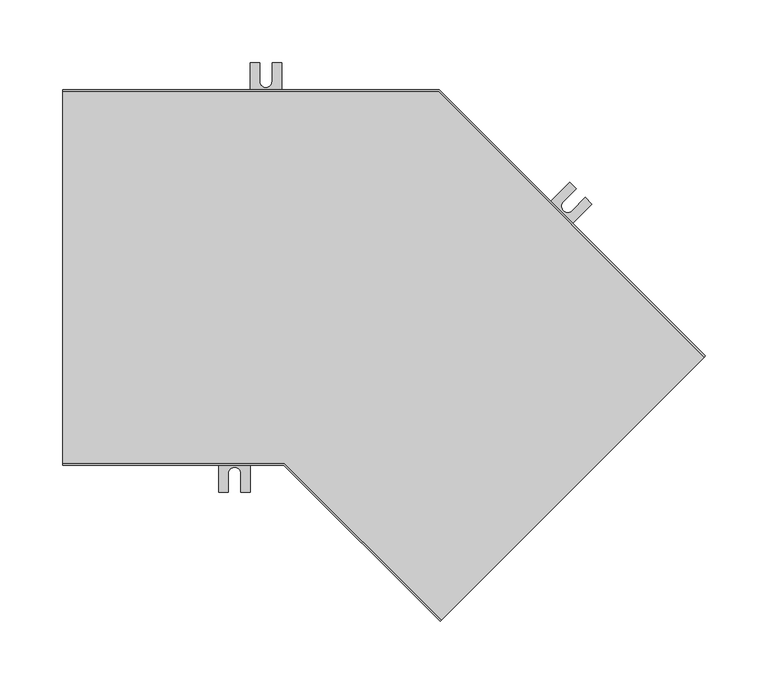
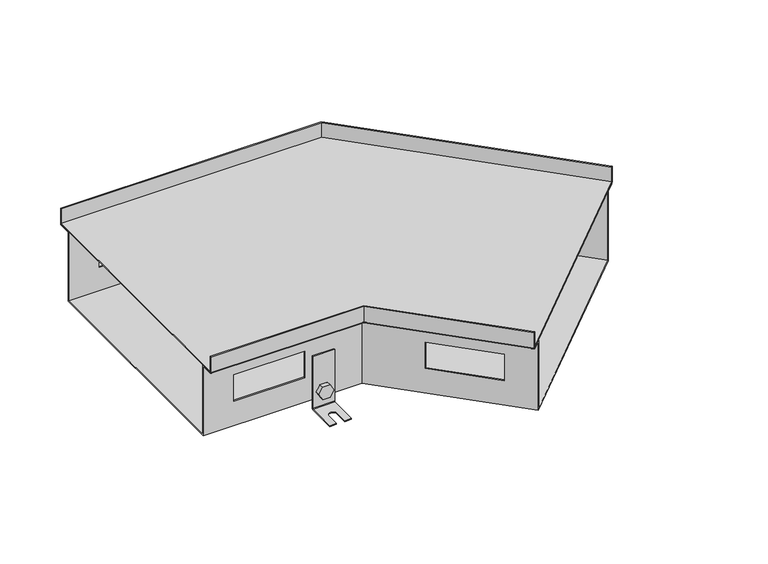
"""IFC4 building model written with IfcOpenShell, lengths in millimetres: proxy geometry, TECHNO_Угловой элемент_KVU : 300_105_135°."""

from ifc_helpers import new_model, si_unit, point, frame, frame_2d, origin, place, context, project, spatial, polyline, circle_curve, ellipse_curve, trimmed, segment, composite_curve, outline, extrude, source, transform, mapped, element, save
from ifc_brep_helpers import plane_surface, cylinder_surface, revolved_surface, advanced_brep


def mechanical_equipment_d3b76028(model_context):
    return source(origin(), model_context, "Body", "SolidModel", [
        extrude(outline(composite_curve([segment(trimmed(circle_curve(frame_2d((0.0, -7.5000001)), 7.5), [point((0.0, -15.0))], [point((0.0, 0.0))], False, "CARTESIAN"), True, "CONTINUOUS"), segment(trimmed(circle_curve(frame_2d((0.0, -7.5000001)), 7.5), [point((0.0, 0.0))], [point((0.0, -15.0))], False, "CARTESIAN"), True, "CONTINUOUS")], self_intersect=False)), frame((361.7404725, -31.0900467, -95.5), z_axis=(0.7071067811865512, 0.7071067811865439, 0.0), x_axis=(0.0, 0.0, 1.0)), (0.0, 0.0, 1.0), 1.5),
        extrude(outline(polyline([(0.0, 0.0), (8.660254, 1e-07), (12.990381, -7.5), (8.660254, -15.0), (0.0, -15.0), (-4.3301271, -7.4999999), (0.0, 0.0)])), frame((345.8586746, -24.1177942, -95.5), z_axis=(0.7071067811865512, 0.7071067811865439, 0.0), x_axis=(0.3535533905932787, -0.3535533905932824, -0.8660254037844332)), (0.0, 0.0, 1.0), 5.1),
        advanced_brep(
        [(364.4274783, -35.4741087, -50.5), (364.4274783, -35.4741087, -113.5), (363.8617928, -36.0397941, -114.3), (340.5272691, -59.3743179, -114.3), (340.5272691, -59.3743179, -115.5), (363.8617928, -36.0397941, -115.5), (365.2760064, -34.6255806, -113.5), (365.2760064, -34.6255806, -50.5), (346.7498087, -17.7964392, -50.5), (347.5983369, -16.947911, -50.5), (347.5983369, -16.947911, -113.5), (346.1841233, -18.3621246, -115.5), (322.8495995, -41.6966484, -115.5), (322.8495995, -41.6966484, -114.3), (346.1841233, -18.3621246, -114.3), (346.7498087, -17.7964392, -113.5), (328.1529004, -46.9999492, -114.3), (338.7595021, -36.3933475, -114.3), (345.8305699, -43.4644153, -114.3), (335.2239682, -54.0710171, -114.3), (335.2239682, -54.0710171, -115.5), (328.1529004, -46.9999492, -115.5), (345.8305699, -43.4644153, -115.5), (338.7595021, -36.3933475, -115.5)],
        [
            (0, 1),
            (1, 2, circle_curve(frame((363.8617928, -36.0397941, -113.5), z_axis=(-0.7071067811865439, 0.7071067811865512, 0.0), x_axis=(-0.7071067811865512, -0.7071067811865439, 0.0)), 0.8)),
            (2, 3),
            (3, 4),
            (4, 5),
            (5, 6, circle_curve(frame((363.8617928, -36.0397941, -113.5), z_axis=(0.7071067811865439, -0.7071067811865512, 0.0), x_axis=(-0.7071067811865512, -0.7071067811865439, 0.0)), 2.0)),
            (6, 7),
            (7, 0),
            (8, 9),
            (9, 10),
            (10, 11, circle_curve(frame((346.1841233, -18.3621246, -113.5), z_axis=(-0.7071067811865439, 0.7071067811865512, 0.0), x_axis=(-0.7071067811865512, -0.7071067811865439, 0.0)), 2.0)),
            (11, 12),
            (12, 13),
            (13, 14),
            (14, 15, circle_curve(frame((346.1841233, -18.3621246, -113.5), z_axis=(0.7071067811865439, -0.7071067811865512, 0.0), x_axis=(-0.7071067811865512, -0.7071067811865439, 0.0)), 0.8)),
            (15, 8),
            (0, 8),
            (15, 1),
            (14, 2),
            (13, 16),
            (16, 17),
            (17, 18, circle_curve(frame((342.295036, -39.9288814, -114.3), z_axis=(0.0, 0.0, -1.0), x_axis=(0.7071067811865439, -0.7071067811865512, 0.0)), 5.0)),
            (18, 19),
            (19, 3),
            (19, 20),
            (20, 4),
            (12, 21),
            (21, 16),
            (20, 22),
            (22, 23, circle_curve(frame((342.295036, -39.9288814, -115.5), z_axis=(0.0, 0.0, 1.0), x_axis=(0.7071067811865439, -0.7071067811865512, 0.0)), 5.0)),
            (23, 21),
            (11, 5),
            (10, 6),
            (9, 7),
            (23, 17),
            (18, 22),
        ],
        [
            plane_surface(frame((364.4274783, -35.4741087, -50.5), z_axis=(0.7071067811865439, -0.7071067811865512, 0.0), x_axis=(0.0, 0.0, -1.0))),
            plane_surface(frame((346.7498087, -17.7964392, -50.5), z_axis=(-0.7071067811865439, 0.7071067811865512, 0.0), x_axis=(0.0, 0.0, 1.0))),
            plane_surface(frame((364.4274783, -35.4741087, -50.5), z_axis=(-0.7071067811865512, -0.7071067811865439, 0.0), x_axis=(-0.7071067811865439, 0.7071067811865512, 0.0))),
            revolved_surface(polyline([(345.61843787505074, -18.92781002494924, -113.5), (363.29610742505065, -36.605479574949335, -113.5)]), (346.1841233, -18.3621246, -113.5), (-0.7071067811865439, 0.7071067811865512, 0.0)),
            plane_surface(frame((363.8617928, -36.0397941, -114.3), z_axis=(0.0, 0.0, 1.0), x_axis=(-0.7071067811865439, 0.7071067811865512, 0.0))),
            plane_surface(frame((340.5272691, -59.3743179, -114.3), z_axis=(-0.7071067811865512, -0.7071067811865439, 0.0), x_axis=(-0.7071067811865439, 0.7071067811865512, 0.0))),
            plane_surface(frame((340.5272691, -59.3743179, -115.5), z_axis=(0.0, 0.0, -1.0), x_axis=(-0.7071067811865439, 0.7071067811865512, 0.0))),
            cylinder_surface(frame((346.1841233, -18.3621246, -113.5), z_axis=(0.7071067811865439, -0.7071067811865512, 0.0), x_axis=(-0.7071067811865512, -0.7071067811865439, 0.0)), 2.0),
            plane_surface(frame((365.2760064, -34.6255806, -113.5), z_axis=(0.7071067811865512, 0.7071067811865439, 0.0), x_axis=(-0.7071067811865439, 0.7071067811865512, 0.0))),
            plane_surface(frame((365.2760064, -34.6255806, -50.5), z_axis=(0.0, 0.0, 1.0), x_axis=(-0.7071067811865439, 0.7071067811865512, 0.0))),
            plane_surface(frame((338.7595021, -36.3933475, -114.3), z_axis=(0.7071067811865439, -0.7071067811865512, 0.0), x_axis=(0.0, 0.0, -1.0))),
            plane_surface(frame((335.2239682, -54.0710171, -114.3), z_axis=(-0.707106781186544, 0.7071067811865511, 0.0), x_axis=(0.0, 0.0, -1.0))),
            revolved_surface(polyline([(345.8305699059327, -43.46441530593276, -114.3), (345.8305699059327, -43.46441530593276, -115.5)]), (342.295036, -39.9288814, -115.5), (0.0, 0.0, 1.0)),
        ],
        [
            (0, [[1, 2, 3, 4, 5, 6, 7, 8]]),
            (1, [[9, 10, 11, 12, 13, 14, 15, 16]]),
            (2, [[-1, 17, -16, 18]]),
            (3, [[-2, -18, -15, 19]]),
            (4, [[-3, -19, -14, 20, 21, 22, 23, 24]]),
            (5, [[-4, -24, 25, 26]]),
            (5, [[-13, 27, 28, -20]]),
            (6, [[-5, -26, 29, 30, 31, -27, -12, 32]]),
            (7, [[-6, -32, -11, 33]]),
            (8, [[-7, -33, -10, 34]]),
            (9, [[-8, -34, -9, -17]]),
            (10, [[35, -21, -28, -31]]),
            (11, [[36, -29, -25, -23]]),
            (12, [[-35, -30, -36, -22]]),
        ],
    ),
        extrude(outline(composite_curve([segment(trimmed(circle_curve(frame_2d((0.0, -7.5)), 7.5), [point((0.0, -15.0))], [point((0.0, 0.0))], False, "CARTESIAN"), True, "CONTINUOUS"), segment(trimmed(circle_curve(frame_2d((0.0, -7.5)), 7.5), [point((0.0, 0.0))], [point((0.0, -15.0))], False, "CARTESIAN"), True, "CONTINUOUS")], self_intersect=False)), frame((383.165808, 46.9038313, -95.5), z_axis=(0.7071067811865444, 0.7071067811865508, 0.0), x_axis=(0.0, 0.0, -1.0)), (0.0, 0.0, 1.0), 1.5),
        extrude(outline(polyline([(0.0, 0.0), (4.330127, -7.5), (0.0, -15.0), (-8.660254, -15.0), (-12.990381, -7.5), (-8.6602541, 0.0), (0.0, 0.0)])), frame((396.5020215, 37.3859944, -95.5), z_axis=(0.7071067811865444, 0.7071067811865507, 0.0), x_axis=(0.35355339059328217, -0.35355339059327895, 0.8660254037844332)), (0.0, 0.0, 1.0), 5.1),
        advanced_brep(
        [(381.5394624, 52.3485535, -50.5), (381.5394624, 52.3485535, -113.5), (382.1051478, 52.9142389, -114.3), (405.4396716, 76.2487627, -114.3), (405.4396716, 76.2487627, -115.5), (382.1051478, 52.9142389, -115.5), (380.6909342, 51.5000254, -113.5), (380.6909342, 51.5000254, -50.5), (399.2171319, 34.670884, -50.5), (398.3686038, 33.8223559, -50.5), (398.3686038, 33.8223559, -113.5), (399.7828173, 35.2365694, -115.5), (423.1173411, 58.5710932, -115.5), (423.1173411, 58.5710932, -114.3), (399.7828173, 35.2365694, -114.3), (399.2171319, 34.670884, -113.5), (417.8140403, 63.8743941, -114.3), (407.2074385, 53.2677923, -114.3), (400.1363707, 60.3388601, -114.3), (410.7429724, 70.9454619, -114.3), (410.7429724, 70.9454619, -115.5), (417.8140403, 63.8743941, -115.5), (400.1363707, 60.3388601, -115.5), (407.2074385, 53.2677923, -115.5)],
        [
            (0, 1),
            (1, 2, circle_curve(frame((382.1051478, 52.9142389, -113.5), z_axis=(0.7071067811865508, -0.7071067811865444, 0.0), x_axis=(0.7071067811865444, 0.7071067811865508, 0.0)), 0.8)),
            (2, 3),
            (3, 4),
            (4, 5),
            (5, 6, circle_curve(frame((382.1051478, 52.9142389, -113.5), z_axis=(-0.7071067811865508, 0.7071067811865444, 0.0), x_axis=(0.7071067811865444, 0.7071067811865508, 0.0)), 2.0)),
            (6, 7),
            (7, 0),
            (8, 9),
            (9, 10),
            (10, 11, circle_curve(frame((399.7828173, 35.2365694, -113.5), z_axis=(0.7071067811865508, -0.7071067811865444, 0.0), x_axis=(0.7071067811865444, 0.7071067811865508, 0.0)), 2.0)),
            (11, 12),
            (12, 13),
            (13, 14),
            (14, 15, circle_curve(frame((399.7828173, 35.2365694, -113.5), z_axis=(-0.7071067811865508, 0.7071067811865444, 0.0), x_axis=(0.7071067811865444, 0.7071067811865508, 0.0)), 0.8)),
            (15, 8),
            (0, 8),
            (15, 1),
            (14, 2),
            (13, 16),
            (16, 17),
            (17, 18, circle_curve(frame((403.6719046, 56.8033262, -114.3), z_axis=(0.0, 0.0, -1.0), x_axis=(-0.7071067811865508, 0.7071067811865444, 0.0)), 5.0)),
            (18, 19),
            (19, 3),
            (19, 20),
            (20, 4),
            (12, 21),
            (21, 16),
            (20, 22),
            (22, 23, circle_curve(frame((403.6719046, 56.8033262, -115.5), z_axis=(0.0, 0.0, 1.0), x_axis=(-0.7071067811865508, 0.7071067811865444, 0.0)), 5.0)),
            (23, 21),
            (11, 5),
            (10, 6),
            (9, 7),
            (23, 17),
            (18, 22),
        ],
        [
            plane_surface(frame((381.5394624, 52.3485535, -50.5), z_axis=(-0.7071067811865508, 0.7071067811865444, 0.0), x_axis=(0.0, 0.0, -1.0))),
            plane_surface(frame((399.2171319, 34.670884, -50.5), z_axis=(0.7071067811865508, -0.7071067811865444, 0.0), x_axis=(0.0, 0.0, 1.0))),
            plane_surface(frame((381.5394624, 52.3485535, -50.5), z_axis=(0.7071067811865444, 0.7071067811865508, 0.0), x_axis=(0.7071067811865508, -0.7071067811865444, 0.0))),
            revolved_surface(polyline([(400.3485027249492, 35.80225482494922, -113.5), (382.6708332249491, 53.47992432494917, -113.5)]), (399.7828173, 35.2365694, -113.5), (0.7071067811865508, -0.7071067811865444, 0.0)),
            plane_surface(frame((382.1051478, 52.9142389, -114.3), z_axis=(0.0, 0.0, 1.0000000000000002), x_axis=(0.7071067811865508, -0.7071067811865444, 0.0))),
            plane_surface(frame((405.4396716, 76.2487627, -114.3), z_axis=(0.7071067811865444, 0.7071067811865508, 0.0), x_axis=(0.7071067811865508, -0.7071067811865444, 0.0))),
            plane_surface(frame((405.4396716, 76.2487627, -115.5), z_axis=(0.0, 0.0, -1.0000000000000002), x_axis=(0.7071067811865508, -0.7071067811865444, 0.0))),
            cylinder_surface(frame((399.7828173, 35.2365694, -113.5), z_axis=(-0.7071067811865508, 0.7071067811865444, 0.0), x_axis=(0.7071067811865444, 0.7071067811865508, 0.0)), 2.0),
            plane_surface(frame((380.6909342, 51.5000254, -113.5), z_axis=(-0.7071067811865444, -0.7071067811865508, 0.0), x_axis=(0.7071067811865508, -0.7071067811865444, 0.0))),
            plane_surface(frame((380.6909342, 51.5000254, -50.5), z_axis=(0.0, 0.0, 1.0000000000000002), x_axis=(0.7071067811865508, -0.7071067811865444, 0.0))),
            plane_surface(frame((407.2074385, 53.2677923, -114.3), z_axis=(-0.7071067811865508, 0.7071067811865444, 0.0), x_axis=(0.0, 0.0, -1.0))),
            plane_surface(frame((410.7429724, 70.9454619, -114.3), z_axis=(0.7071067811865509, -0.7071067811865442, 0.0), x_axis=(0.0, 0.0, -1.0))),
            revolved_surface(polyline([(400.13637069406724, 60.338860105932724, -114.3), (400.13637069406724, 60.338860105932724, -115.5)]), (403.6719046, 56.8033262, -115.5), (0.0, 0.0, 1.0)),
        ],
        [
            (0, [[1, 2, 3, 4, 5, 6, 7, 8]]),
            (1, [[9, 10, 11, 12, 13, 14, 15, 16]]),
            (2, [[-1, 17, -16, 18]]),
            (3, [[-2, -18, -15, 19]]),
            (4, [[-3, -19, -14, 20, 21, 22, 23, 24]]),
            (5, [[-4, -24, 25, 26]]),
            (5, [[-13, 27, 28, -20]]),
            (6, [[-5, -26, 29, 30, 31, -27, -12, 32]]),
            (7, [[-6, -32, -11, 33]]),
            (8, [[-7, -33, -10, 34]]),
            (9, [[-8, -34, -9, -17]]),
            (10, [[35, -21, -28, -31]]),
            (11, [[36, -29, -25, -23]]),
            (12, [[-35, -30, -36, -22]]),
        ],
    ),
        extrude(outline(composite_curve([segment(trimmed(circle_curve(frame_2d((-95.5, 162.5)), 7.5), [point((-95.5, 155.0))], [point((-95.5, 170.0))], False, "CARTESIAN"), True, "CONTINUOUS"), segment(trimmed(circle_curve(frame_2d((-95.5, 162.5)), 7.5), [point((-95.5, 170.0))], [point((-95.5, 155.0))], False, "CARTESIAN"), True, "CONTINUOUS")], self_intersect=False)), frame((0.0, 135.2, 0.0), z_axis=(0.0, 1.0, 0.0), x_axis=(0.0, 0.0, 1.0)), (0.0, 0.0, 1.0), 1.5),
        extrude(outline(polyline([(-95.5, 153.839746), (-103.0, 158.169873), (-103.0, 166.830127), (-95.5, 171.160254), (-88.0, 166.830127), (-88.0, 158.169873), (-95.5, 153.839746)])), frame((0.0, 137.9, 0.0), z_axis=(0.0, 1.0, 0.0), x_axis=(0.0, 0.0, 1.0)), (0.0, 0.0, 1.0), 5.1),
        advanced_brep(
        [(175.0, 137.9, -50.5), (175.0, 136.7, -50.5), (175.0, 136.7, -113.5), (175.0, 138.7, -115.5), (175.0, 171.7, -115.5), (175.0, 171.7, -114.3), (175.0, 138.7, -114.3), (175.0, 137.9, -113.5), (150.0, 137.9, -50.5), (150.0, 137.9, -113.5), (150.0, 138.7, -114.3), (150.0, 171.7, -114.3), (150.0, 171.7, -115.5), (150.0, 138.7, -115.5), (150.0, 136.7, -113.5), (150.0, 136.7, -50.5), (167.5, 171.7, -114.3), (167.5, 156.7, -114.3), (157.5, 156.7, -114.3), (157.5, 171.7, -114.3), (157.5, 171.7, -115.5), (167.5, 171.7, -115.5), (157.5, 156.7, -115.5), (167.5, 156.7, -115.5)],
        [
            (0, 1),
            (1, 2),
            (2, 3, circle_curve(frame((175.0, 138.7, -113.5), z_axis=(1.0, 0.0, 0.0), x_axis=(0.0, 1.0, 0.0)), 2.0)),
            (3, 4),
            (4, 5),
            (5, 6),
            (6, 7, circle_curve(frame((175.0, 138.7, -113.5), z_axis=(-1.0, 0.0, 0.0), x_axis=(0.0, 1.0, 0.0)), 0.8)),
            (7, 0),
            (8, 9),
            (9, 10, circle_curve(frame((150.0, 138.7, -113.5), z_axis=(1.0, 0.0, 0.0), x_axis=(0.0, 1.0, 0.0)), 0.8)),
            (10, 11),
            (11, 12),
            (12, 13),
            (13, 14, circle_curve(frame((150.0, 138.7, -113.5), z_axis=(-1.0, 0.0, 0.0), x_axis=(0.0, 1.0, 0.0)), 2.0)),
            (14, 15),
            (15, 8),
            (7, 9),
            (8, 0),
            (6, 10),
            (5, 16),
            (16, 17),
            (17, 18, circle_curve(frame((162.5, 156.7, -114.3), z_axis=(0.0, 0.0, -1.0), x_axis=(1.0, 0.0, 0.0)), 5.0)),
            (18, 19),
            (19, 11),
            (19, 20),
            (20, 12),
            (4, 21),
            (21, 16),
            (3, 13),
            (20, 22),
            (22, 23, circle_curve(frame((162.5, 156.7, -115.5), z_axis=(0.0, 0.0, 1.0), x_axis=(1.0, 0.0, 0.0)), 5.0)),
            (23, 21),
            (2, 14),
            (1, 15),
            (18, 22),
            (23, 17),
        ],
        [
            plane_surface(frame((175.0, 137.9, -50.5), z_axis=(1.0, 0.0, 0.0), x_axis=(0.0, 0.0, -1.0))),
            plane_surface(frame((150.0, 137.9, -50.5), z_axis=(-1.0, 0.0, 0.0), x_axis=(0.0, 0.0, 1.0))),
            plane_surface(frame((175.0, 137.9, -50.5), z_axis=(0.0, 1.0, 0.0), x_axis=(-1.0, 0.0, 0.0))),
            revolved_surface(polyline([(150.0, 139.5, -113.5), (175.0, 139.5, -113.5)]), (150.0, 138.7, -113.5), (-1.0, 0.0, 0.0)),
            plane_surface(frame((175.0, 138.7, -114.3), z_axis=(0.0, 0.0, 1.0), x_axis=(-1.0, 0.0, 0.0))),
            plane_surface(frame((175.0, 171.7, -114.3), z_axis=(0.0, 1.0, 0.0), x_axis=(-1.0, 0.0, 0.0))),
            plane_surface(frame((175.0, 171.7, -115.5), z_axis=(0.0, 0.0, -1.0), x_axis=(-1.0, 0.0, 0.0))),
            cylinder_surface(frame((150.0, 138.7, -113.5), z_axis=(1.0, 0.0, 0.0), x_axis=(0.0, 1.0, 0.0)), 2.0),
            plane_surface(frame((175.0, 136.7, -113.5), z_axis=(0.0, -1.0, 0.0), x_axis=(-1.0, 0.0, 0.0))),
            plane_surface(frame((175.0, 136.7, -50.5), z_axis=(0.0, 0.0, 1.0), x_axis=(-1.0, 0.0, 0.0))),
            plane_surface(frame((157.5, 156.7, -114.3), z_axis=(1.0, 0.0, 0.0), x_axis=(0.0, 0.0, -1.0))),
            plane_surface(frame((167.5, 171.7, -114.3), z_axis=(-1.0, 0.0, 0.0), x_axis=(0.0, 0.0, -1.0))),
            revolved_surface(polyline([(167.5, 156.7, -114.3), (167.5, 156.7, -115.5)]), (162.5, 156.7, -115.5), (0.0, 0.0, 1.0)),
        ],
        [
            (0, [[1, 2, 3, 4, 5, 6, 7, 8]]),
            (1, [[9, 10, 11, 12, 13, 14, 15, 16]]),
            (2, [[17, -9, 18, -8]]),
            (3, [[19, -10, -17, -7]]),
            (4, [[20, 21, 22, 23, 24, -11, -19, -6]]),
            (5, [[-24, 25, 26, -12]]),
            (5, [[27, 28, -20, -5]]),
            (6, [[29, -13, -26, 30, 31, 32, -27, -4]]),
            (7, [[33, -14, -29, -3]]),
            (8, [[34, -15, -33, -2]]),
            (9, [[-18, -16, -34, -1]]),
            (10, [[-30, -25, -23, 35]]),
            (11, [[-21, -28, -32, 36]]),
            (12, [[-22, -36, -31, -35]]),
        ],
    ),
        extrude(outline(composite_curve([segment(trimmed(circle_curve(frame_2d((-95.5, 137.5)), 7.5), [point((-95.5, 130.0))], [point((-95.5, 145.0))], False, "CARTESIAN"), True, "CONTINUOUS"), segment(trimmed(circle_curve(frame_2d((-95.5, 137.5)), 7.5), [point((-95.5, 145.0))], [point((-95.5, 130.0))], False, "CARTESIAN"), True, "CONTINUOUS")], self_intersect=False)), frame((0.0, -136.7, 0.0), z_axis=(0.0, 1.0, 0.0), x_axis=(0.0, 0.0, 1.0)), (0.0, 0.0, 1.0), 1.5),
        extrude(outline(polyline([(-95.5, 128.839746), (-103.0, 133.169873), (-103.0, 141.830127), (-95.5, 146.160254), (-88.0, 141.830127), (-88.0, 133.169873), (-95.5, 128.839746)])), frame((0.0, -143.0, 0.0), z_axis=(0.0, 1.0, 0.0), x_axis=(0.0, 0.0, 1.0)), (0.0, 0.0, 1.0), 5.1),
        advanced_brep(
        [(150.0, -137.9, -50.5), (150.0, -137.9, -113.5), (150.0, -138.7, -114.3), (150.0, -171.7, -114.3), (150.0, -171.7, -115.5), (150.0, -138.7, -115.5), (150.0, -136.7, -113.5), (150.0, -136.7, -50.5), (125.0, -137.9, -50.5), (125.0, -136.7, -50.5), (125.0, -136.7, -113.5), (125.0, -138.7, -115.5), (125.0, -171.7, -115.5), (125.0, -171.7, -114.3), (125.0, -138.7, -114.3), (125.0, -137.9, -113.5), (132.5, -171.7, -114.3), (132.5, -156.7, -114.3), (142.5, -156.7, -114.3), (142.5, -171.7, -114.3), (142.5, -171.7, -115.5), (132.5, -171.7, -115.5), (142.5, -156.7, -115.5), (132.5, -156.7, -115.5)],
        [
            (0, 1),
            (1, 2, circle_curve(frame((150.0, -138.7, -113.5), z_axis=(-1.0, 0.0, 0.0), x_axis=(0.0, -1.0, 0.0)), 0.8)),
            (2, 3),
            (3, 4),
            (4, 5),
            (5, 6, circle_curve(frame((150.0, -138.7, -113.5), z_axis=(1.0, 0.0, 0.0), x_axis=(0.0, -1.0, 0.0)), 2.0)),
            (6, 7),
            (7, 0),
            (8, 9),
            (9, 10),
            (10, 11, circle_curve(frame((125.0, -138.7, -113.5), z_axis=(-1.0, 0.0, 0.0), x_axis=(0.0, -1.0, 0.0)), 2.0)),
            (11, 12),
            (12, 13),
            (13, 14),
            (14, 15, circle_curve(frame((125.0, -138.7, -113.5), z_axis=(1.0, 0.0, 0.0), x_axis=(0.0, -1.0, 0.0)), 0.8)),
            (15, 8),
            (0, 8),
            (15, 1),
            (14, 2),
            (13, 16),
            (16, 17),
            (17, 18, circle_curve(frame((137.5, -156.7, -114.3), z_axis=(0.0, 0.0, -1.0), x_axis=(1.0, 0.0, 0.0)), 5.0)),
            (18, 19),
            (19, 3),
            (19, 20),
            (20, 4),
            (12, 21),
            (21, 16),
            (20, 22),
            (22, 23, circle_curve(frame((137.5, -156.7, -115.5), z_axis=(0.0, 0.0, 1.0), x_axis=(1.0, 0.0, 0.0)), 5.0)),
            (23, 21),
            (11, 5),
            (10, 6),
            (9, 7),
            (23, 17),
            (18, 22),
        ],
        [
            plane_surface(frame((150.0, -137.9, -50.5), z_axis=(1.0, 0.0, 0.0), x_axis=(0.0, 0.0, -1.0))),
            plane_surface(frame((125.0, -137.9, -50.5), z_axis=(-1.0, 0.0, 0.0), x_axis=(0.0, 0.0, 1.0))),
            plane_surface(frame((150.0, -137.9, -50.5), z_axis=(0.0, -1.0, 0.0), x_axis=(-1.0, 0.0, 0.0))),
            revolved_surface(polyline([(125.0, -139.5, -113.5), (150.0, -139.5, -113.5)]), (125.0, -138.7, -113.5), (-1.0, 0.0, 0.0)),
            plane_surface(frame((150.0, -138.7, -114.3), z_axis=(0.0, 0.0, 1.0), x_axis=(-1.0, 0.0, 0.0))),
            plane_surface(frame((150.0, -171.7, -114.3), z_axis=(0.0, -1.0, 0.0), x_axis=(-1.0, 0.0, 0.0))),
            plane_surface(frame((150.0, -171.7, -115.5), z_axis=(0.0, 0.0, -1.0), x_axis=(-1.0, 0.0, 0.0))),
            cylinder_surface(frame((125.0, -138.7, -113.5), z_axis=(1.0, 0.0, 0.0), x_axis=(0.0, -1.0, 0.0)), 2.0),
            plane_surface(frame((150.0, -136.7, -113.5), z_axis=(0.0, 1.0, 0.0), x_axis=(-1.0, 0.0, 0.0))),
            plane_surface(frame((150.0, -136.7, -50.5), z_axis=(0.0, 0.0, 1.0), x_axis=(-1.0, 0.0, 0.0))),
            plane_surface(frame((132.5, -156.7, -114.3), z_axis=(1.0, 0.0, 0.0), x_axis=(0.0, 0.0, -1.0))),
            plane_surface(frame((142.5, -171.7, -114.3), z_axis=(-1.0, 0.0, 0.0), x_axis=(0.0, 0.0, -1.0))),
            revolved_surface(polyline([(142.5, -156.7, -114.3), (142.5, -156.7, -115.5)]), (137.5, -156.7, -115.5), (0.0, 0.0, 1.0)),
        ],
        [
            (0, [[1, 2, 3, 4, 5, 6, 7, 8]]),
            (1, [[9, 10, 11, 12, 13, 14, 15, 16]]),
            (2, [[-1, 17, -16, 18]]),
            (3, [[-2, -18, -15, 19]]),
            (4, [[-3, -19, -14, 20, 21, 22, 23, 24]]),
            (5, [[-4, -24, 25, 26]]),
            (5, [[-13, 27, 28, -20]]),
            (6, [[-5, -26, 29, 30, 31, -27, -12, 32]]),
            (7, [[-6, -32, -11, 33]]),
            (8, [[-7, -33, -10, 34]]),
            (9, [[-8, -34, -9, -17]]),
            (10, [[35, -21, -28, -31]]),
            (11, [[36, -29, -25, -23]]),
            (12, [[-35, -30, -36, -22]]),
        ],
    ),
        extrude(outline(polyline([(512.990613, -63.6876693), (302.5556349, -274.1226474), (177.2329876, -148.8), (0.0, -148.8), (0.0, 148.8), (300.5029437, 148.8), (512.990613, -63.6876693)])), frame((0.0, 0.0, -19.3), z_axis=(0.0, 0.0, 1.0), x_axis=(1.0, 0.0, 0.0)), (0.0, 0.0, 1.0), 1.2),
        advanced_brep(
        [(301.7071068, -274.9711755, -19.3), (302.5556349, -274.1226474, -20.5), (312.1722871, -264.5059951, -20.5), (312.1722871, -264.5059951, -105.0), (503.3739608, -73.3043215, -105.0), (503.3739608, -73.3043215, -20.5), (512.990613, -63.6876693, -20.5), (513.8391411, -62.8391411, -19.3), (513.8391411, -62.8391411, 0.0), (512.990613, -63.6876693, 0.0), (512.990613, -63.6876693, -19.3), (503.3739608, -73.3043215, -19.3), (502.5254326, -74.1528496, -20.5), (502.5254326, -74.1528496, -103.8), (313.0208153, -263.657467, -103.8), (313.0208153, -263.657467, -20.5), (312.1722871, -264.5059951, -19.3), (302.5556349, -274.1226474, -19.3), (302.5556349, -274.1226474, 0.0), (301.7071068, -274.9711755, 0.0), (0.0, -150.0, -19.3), (0.0, -150.0, 0.0), (0.0, -148.8, 0.0), (0.0, -148.8, -19.3), (0.0, -135.2, -19.3), (0.0, -134.0, -20.5), (0.0, -134.0, -103.8), (0.0, 134.0, -103.8), (0.0, 134.0, -20.5), (0.0, 135.2, -19.3), (0.0, 148.8, -19.3), (0.0, 148.8, 0.0), (0.0, 150.0, 0.0), (0.0, 150.0, -19.3), (0.0, 148.8, -20.5), (0.0, 135.2, -20.5), (0.0, 135.2, -105.0), (0.0, -135.2, -105.0), (0.0, -135.2, -20.5), (0.0, -148.8, -20.5), (177.2329876, -148.8, -20.5), (176.7359313, -150.0, -19.3), (177.2329876, -148.8, 0.0), (177.2329876, -148.8, -19.3), (182.866292, -135.2, -105.0), (182.866292, -135.2, -20.5), (35.0, -135.2, -43.0), (117.0, -135.2, -43.0), (117.0, -135.2, -75.0), (35.0, -135.2, -75.0), (183.3633483, -134.0, -20.5), (183.3633483, -134.0, -103.8), (117.0, -134.0, -43.0), (35.0, -134.0, -43.0), (35.0, -134.0, -75.0), (117.0, -134.0, -75.0), (182.866292, -135.2, -19.3), (229.4407937, -181.7745017, -43.0), (287.4235498, -239.7572578, -43.0), (287.4235498, -239.7572578, -75.0), (229.4407937, -181.7745017, -75.0), (294.8696393, 135.2, -105.0), (294.372583, 134.0, -103.8), (288.2720779, -238.9087297, -43.0), (230.2893219, -180.9259736, -43.0), (230.2893219, -180.9259736, -75.0), (288.2720779, -238.9087297, -75.0), (176.7359313, -150.0, 0.0), (294.8696393, 135.2, -20.5), (478.6252234, -48.5555842, -43.0), (420.6424674, 9.4271719, -43.0), (420.6424674, 9.4271719, -75.0), (478.6252234, -48.5555842, -75.0), (300.5029437, 148.8, -20.5), (301.0, 150.0, -19.3), (301.0, 150.0, 0.0), (300.5029437, 148.8, 0.0), (300.5029437, 148.8, -19.3), (294.8696393, 135.2, -19.3), (294.372583, 134.0, -20.5), (419.7939392, 8.5786438, -43.0), (477.7766953, -49.4041123, -43.0), (477.7766953, -49.4041123, -75.0), (419.7939392, 8.5786438, -75.0), (117.0, 135.2, -43.0), (35.0, 135.2, -43.0), (35.0, 135.2, -75.0), (117.0, 135.2, -75.0), (35.0, 134.0, -43.0), (117.0, 134.0, -43.0), (117.0, 134.0, -75.0), (35.0, 134.0, -75.0)],
        [
            (0, 1, circle_curve(frame((302.5556349, -274.1226474, -19.3), z_axis=(0.7071067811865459, -0.7071067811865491, 0.0), x_axis=(-0.7071067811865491, -0.7071067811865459, 0.0)), 1.2)),
            (1, 2),
            (2, 3),
            (3, 4),
            (4, 5),
            (5, 6),
            (6, 7, circle_curve(frame((512.990613, -63.6876693, -19.3), z_axis=(0.7071067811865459, -0.7071067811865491, 0.0), x_axis=(-0.7071067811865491, -0.7071067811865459, 0.0)), 1.2)),
            (7, 8),
            (8, 9),
            (9, 10),
            (10, 11),
            (11, 12, circle_curve(frame((503.3739608, -73.3043215, -20.5), z_axis=(0.7071067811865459, -0.7071067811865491, 0.0), x_axis=(-0.7071067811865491, -0.7071067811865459, 0.0)), 1.2)),
            (12, 13),
            (13, 14),
            (14, 15),
            (15, 16, circle_curve(frame((312.1722871, -264.5059951, -20.5), z_axis=(0.7071067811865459, -0.7071067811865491, 0.0), x_axis=(-0.7071067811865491, -0.7071067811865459, 0.0)), 1.2)),
            (16, 17),
            (17, 18),
            (18, 19),
            (19, 0),
            (20, 21),
            (21, 22),
            (22, 23),
            (23, 24),
            (24, 25, circle_curve(frame((0.0, -135.2, -20.5), z_axis=(-1.0, 0.0, 0.0), x_axis=(0.0, -1.0, 0.0)), 1.2)),
            (25, 26),
            (26, 27),
            (27, 28),
            (28, 29, circle_curve(frame((0.0, 135.2, -20.5), z_axis=(-1.0, 0.0, 0.0), x_axis=(0.0, -1.0, 0.0)), 1.2)),
            (29, 30),
            (30, 31),
            (31, 32),
            (32, 33),
            (33, 34, circle_curve(frame((0.0, 148.8, -19.3), z_axis=(-1.0, 0.0, 0.0), x_axis=(0.0, -1.0, 0.0)), 1.2)),
            (34, 35),
            (35, 36),
            (36, 37),
            (37, 38),
            (38, 39),
            (39, 20, circle_curve(frame((0.0, -148.8, -19.3), z_axis=(-1.0, 0.0, 0.0), x_axis=(0.0, -1.0, 0.0)), 1.2)),
            (39, 40),
            (40, 41, ellipse_curve(frame((177.2329876, -148.8, -19.3), z_axis=(-0.9238795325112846, 0.3826834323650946, 0.0), x_axis=(0.38268343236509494, 0.9238795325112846, 0.0)), 1.2988706, 1.2)),
            (41, 20),
            (22, 42),
            (42, 43),
            (43, 23),
            (37, 44),
            (44, 45),
            (45, 38),
            (46, 47),
            (47, 48),
            (48, 49),
            (49, 46),
            (25, 50),
            (50, 51),
            (51, 26),
            (52, 53),
            (53, 54),
            (54, 55),
            (55, 52),
            (24, 56),
            (56, 50, ellipse_curve(frame((182.866292, -135.2, -20.5), z_axis=(-0.9238795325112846, 0.3826834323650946, 0.0), x_axis=(0.38268343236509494, 0.9238795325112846, 0.0)), 1.2988706, 1.2)),
            (0, 41),
            (40, 1),
            (45, 2),
            (44, 3),
            (57, 58),
            (58, 59),
            (59, 60),
            (60, 57),
            (36, 61),
            (61, 4),
            (13, 62),
            (62, 27),
            (51, 14),
            (50, 15),
            (63, 64),
            (64, 65),
            (65, 66),
            (66, 63),
            (56, 16),
            (43, 17),
            (42, 18),
            (21, 67),
            (67, 19),
            (61, 68),
            (68, 5),
            (69, 70),
            (70, 71),
            (71, 72),
            (72, 69),
            (68, 35),
            (34, 73),
            (73, 6),
            (73, 74, ellipse_curve(frame((300.5029437, 148.8, -19.3), z_axis=(0.9238795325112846, -0.3826834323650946, 0.0), x_axis=(-0.38268343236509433, -0.9238795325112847, 0.0)), 1.2988706, 1.2)),
            (74, 7),
            (74, 75),
            (75, 8),
            (75, 32),
            (31, 76),
            (76, 9),
            (76, 77),
            (77, 10),
            (77, 30),
            (29, 78),
            (78, 11),
            (78, 79, ellipse_curve(frame((294.8696393, 135.2, -20.5), z_axis=(0.9238795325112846, -0.3826834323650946, 0.0), x_axis=(-0.38268343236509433, -0.9238795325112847, 0.0)), 1.2988706, 1.2)),
            (79, 12),
            (79, 62),
            (80, 81),
            (81, 82),
            (82, 83),
            (83, 80),
            (84, 85),
            (85, 86),
            (86, 87),
            (87, 84),
            (33, 74),
            (28, 79),
            (88, 89),
            (89, 90),
            (90, 91),
            (91, 88),
            (41, 67),
            (46, 53),
            (52, 47),
            (88, 85),
            (84, 89),
            (49, 54),
            (91, 86),
            (48, 55),
            (90, 87),
            (57, 64),
            (63, 58),
            (80, 70),
            (69, 81),
            (66, 59),
            (72, 82),
            (65, 60),
            (71, 83),
        ],
        [
            plane_surface(frame((407.773124, -168.9051583, 0.0), z_axis=(0.7071067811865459, -0.7071067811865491, 0.0), x_axis=(0.0, 0.0, 1.0))),
            plane_surface(frame((0.0, 0.0, 0.0), z_axis=(-1.0, 0.0, 0.0), x_axis=(0.0, 0.0, 1.0))),
            cylinder_surface(frame((238.8679656, -148.8, -19.3), z_axis=(1.0, 0.0, 0.0), x_axis=(0.0, -1.0, 0.0)), 1.2),
            plane_surface(frame((177.2329876, -148.8, -19.3), z_axis=(0.0, 1.0, 0.0), x_axis=(-1.0, 0.0, 0.0))),
            plane_surface(frame((182.866292, -135.2, -20.5), z_axis=(0.0, -1.0, 0.0), x_axis=(-1.0, 0.0, 0.0))),
            plane_surface(frame((183.3633483, -134.0, -103.8), z_axis=(0.0, 1.0, 0.0), x_axis=(-1.0, 0.0, 0.0))),
            cylinder_surface(frame((238.8679656, -135.2, -20.5), z_axis=(1.0, 0.0, 0.0), x_axis=(0.0, -1.0, 0.0)), 1.2),
            cylinder_surface(frame((302.5556349, -274.1226474, -19.3), z_axis=(0.7071067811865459, -0.7071067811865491, 0.0), x_axis=(-0.7071067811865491, -0.7071067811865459, 0.0)), 1.2),
            plane_surface(frame((302.5556349, -274.1226474, -20.5), z_axis=(0.0, 0.0, -1.0), x_axis=(-0.707106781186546, 0.7071067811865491, 0.0))),
            plane_surface(frame((312.1722871, -264.5059951, -20.5), z_axis=(-0.707106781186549, -0.7071067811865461, 0.0), x_axis=(-0.7071067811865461, 0.707106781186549, 0.0))),
            plane_surface(frame((312.1722871, -264.5059951, -105.0), z_axis=(0.0, 0.0, -1.0), x_axis=(-0.7071067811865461, 0.707106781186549, 0.0))),
            plane_surface(frame((502.5254326, -74.1528496, -103.8), z_axis=(0.0, 0.0, 1.0000000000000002), x_axis=(-0.7071067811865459, 0.7071067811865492, 0.0))),
            plane_surface(frame((313.0208153, -263.657467, -103.8), z_axis=(0.7071067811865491, 0.707106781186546, 0.0), x_axis=(-0.707106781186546, 0.7071067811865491, 0.0))),
            cylinder_surface(frame((312.1722871, -264.5059951, -20.5), z_axis=(0.7071067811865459, -0.7071067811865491, 0.0), x_axis=(-0.7071067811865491, -0.7071067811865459, 0.0)), 1.2),
            plane_surface(frame((312.1722871, -264.5059951, -19.3), z_axis=(0.0, 0.0, 1.0), x_axis=(-0.707106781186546, 0.7071067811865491, 0.0))),
            plane_surface(frame((302.5556349, -274.1226474, -19.3), z_axis=(0.7071067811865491, 0.707106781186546, 0.0), x_axis=(-0.707106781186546, 0.7071067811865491, 0.0))),
            plane_surface(frame((302.5556349, -274.1226474, 0.0), z_axis=(0.0, 0.0, 1.0), x_axis=(-0.707106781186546, 0.7071067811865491, 0.0))),
            plane_surface(frame((503.3739608, -73.3043215, -105.0), z_axis=(0.7071067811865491, 0.7071067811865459, 0.0), x_axis=(-0.7071067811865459, 0.7071067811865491, 0.0))),
            plane_surface(frame((503.3739608, -73.3043215, -20.5), z_axis=(0.0, 0.0, -1.0), x_axis=(-0.7071067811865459, 0.7071067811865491, 0.0))),
            cylinder_surface(frame((512.990613, -63.6876693, -19.3), z_axis=(0.7071067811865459, -0.7071067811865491, 0.0), x_axis=(-0.7071067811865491, -0.7071067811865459, 0.0)), 1.2),
            plane_surface(frame((513.8391411, -62.8391411, -19.3), z_axis=(0.707106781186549, 0.707106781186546, 0.0), x_axis=(-0.707106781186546, 0.707106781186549, 0.0))),
            plane_surface(frame((513.8391411, -62.8391411, 0.0), z_axis=(0.0, 0.0, 1.0), x_axis=(-0.707106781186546, 0.7071067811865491, 0.0))),
            plane_surface(frame((512.990613, -63.6876693, 0.0), z_axis=(-0.7071067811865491, -0.7071067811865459, 0.0), x_axis=(-0.7071067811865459, 0.7071067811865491, 0.0))),
            plane_surface(frame((512.990613, -63.6876693, -19.3), z_axis=(0.0, 0.0, 1.0), x_axis=(-0.7071067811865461, 0.707106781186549, 0.0))),
            cylinder_surface(frame((503.3739608, -73.3043215, -20.5), z_axis=(0.7071067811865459, -0.7071067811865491, 0.0), x_axis=(-0.7071067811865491, -0.7071067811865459, 0.0)), 1.2),
            plane_surface(frame((502.5254326, -74.1528496, -20.5), z_axis=(-0.7071067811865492, -0.7071067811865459, 0.0), x_axis=(-0.7071067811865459, 0.7071067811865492, 0.0))),
            plane_surface(frame((294.8696393, 135.2, -105.0), z_axis=(0.0, 1.0, 0.0), x_axis=(-1.0, 0.0, 0.0))),
            cylinder_surface(frame((238.8679656, 148.8, -19.3), z_axis=(1.0, 0.0, 0.0), x_axis=(0.0, -1.0, 0.0)), 1.2),
            plane_surface(frame((301.0, 150.0, -19.3), z_axis=(0.0, 1.0, 0.0), x_axis=(-1.0, 0.0, 0.0))),
            plane_surface(frame((300.5029437, 148.8, 0.0), z_axis=(0.0, -1.0, 0.0), x_axis=(-1.0, 0.0, 0.0))),
            cylinder_surface(frame((238.8679656, 135.2, -20.5), z_axis=(1.0, 0.0, 0.0), x_axis=(0.0, -1.0, 0.0)), 1.2),
            plane_surface(frame((294.372583, 134.0, -20.5), z_axis=(0.0, -1.0, 0.0), x_axis=(-1.0, 0.0, 0.0))),
            plane_surface(frame((176.7359313, -150.0, 0.0), z_axis=(0.0, -1.0, 0.0), x_axis=(-1.0, 0.0, 0.0))),
            plane_surface(frame((301.7071068, -274.9711755, 0.0), z_axis=(-0.7071067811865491, -0.7071067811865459, 0.0), x_axis=(-0.7071067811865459, 0.7071067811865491, 0.0))),
            plane_surface(frame((35.0, 150.0, -43.0), z_axis=(0.0, 0.0, -1.0), x_axis=(0.0, -1.0, 0.0))),
            plane_surface(frame((35.0, 150.0, -75.0), z_axis=(1.0, 0.0, 0.0), x_axis=(0.0, -1.0, 0.0))),
            plane_surface(frame((117.0, 150.0, -75.0), z_axis=(0.0, 0.0, 1.0), x_axis=(0.0, -1.0, 0.0))),
            plane_surface(frame((117.0, 150.0, -43.0), z_axis=(-1.0, 0.0, 0.0), x_axis=(0.0, -1.0, 0.0))),
            plane_surface(frame((431.1076477, 19.8923523, -43.0), z_axis=(0.0, 0.0, -1.0), x_axis=(-0.707106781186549, -0.707106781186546, 0.0))),
            plane_surface(frame((489.0904038, -38.0904038, -43.0), z_axis=(-0.707106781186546, 0.707106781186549, 0.0), x_axis=(-0.707106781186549, -0.707106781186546, 0.0))),
            plane_surface(frame((489.0904038, -38.0904038, -75.0), z_axis=(0.0, 0.0, 1.0), x_axis=(-0.707106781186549, -0.707106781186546, 0.0))),
            plane_surface(frame((431.1076477, 19.8923523, -75.0), z_axis=(0.707106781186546, -0.707106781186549, 0.0), x_axis=(-0.707106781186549, -0.707106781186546, 0.0))),
        ],
        [
            (0, [[1, 2, 3, 4, 5, 6, 7, 8, 9, 10, 11, 12, 13, 14, 15, 16, 17, 18, 19, 20]]),
            (1, [[21, 22, 23, 24, 25, 26, 27, 28, 29, 30, 31, 32, 33, 34, 35, 36, 37, 38, 39, 40]]),
            (2, [[-40, 41, 42, 43]]),
            (3, [[-23, 44, 45, 46]]),
            (4, [[-38, 47, 48, 49], [50, 51, 52, 53]]),
            (5, [[-26, 54, 55, 56], [57, 58, 59, 60]]),
            (6, [[-25, 61, 62, -54]]),
            (7, [[-1, 63, -42, 64]]),
            (8, [[-2, -64, -41, -39, -49, 65]]),
            (9, [[-3, -65, -48, 66], [67, 68, 69, 70]]),
            (10, [[-4, -66, -47, -37, 71, 72]]),
            (11, [[-14, 73, 74, -27, -56, 75]]),
            (12, [[-15, -75, -55, 76], [77, 78, 79, 80]]),
            (13, [[-16, -76, -62, 81]]),
            (14, [[-17, -81, -61, -24, -46, 82]]),
            (15, [[-18, -82, -45, 83]]),
            (16, [[-19, -83, -44, -22, 84, 85]]),
            (17, [[-5, -72, 86, 87], [88, 89, 90, 91]]),
            (18, [[-6, -87, 92, -35, 93, 94]]),
            (19, [[-7, -94, 95, 96]]),
            (20, [[-8, -96, 97, 98]]),
            (21, [[-9, -98, 99, -32, 100, 101]]),
            (22, [[-10, -101, 102, 103]]),
            (23, [[-11, -103, 104, -30, 105, 106]]),
            (24, [[-12, -106, 107, 108]]),
            (25, [[-13, -108, 109, -73], [110, 111, 112, 113]]),
            (26, [[-36, -92, -86, -71], [114, 115, 116, 117]]),
            (27, [[-34, 118, -95, -93]]),
            (28, [[-33, -99, -97, -118]]),
            (29, [[-31, -104, -102, -100]]),
            (30, [[-29, 119, -107, -105]]),
            (31, [[-28, -74, -109, -119], [120, 121, 122, 123]]),
            (32, [[-21, -43, 124, -84]]),
            (33, [[-20, -85, -124, -63]]),
            (34, [[125, -57, 126, -50]]),
            (34, [[127, -114, 128, -120]]),
            (35, [[-125, -53, 129, -58]]),
            (35, [[-127, -123, 130, -115]]),
            (36, [[-129, -52, 131, -59]]),
            (36, [[-130, -122, 132, -116]]),
            (37, [[-131, -51, -126, -60]]),
            (37, [[-132, -121, -128, -117]]),
            (38, [[133, -77, 134, -67]]),
            (38, [[135, -88, 136, -110]]),
            (39, [[-134, -80, 137, -68]]),
            (39, [[-136, -91, 138, -111]]),
            (40, [[-137, -79, 139, -69]]),
            (40, [[-138, -90, 140, -112]]),
            (41, [[-133, -70, -139, -78]]),
            (41, [[-135, -113, -140, -89]]),
        ],
    ),
    ])


if __name__ == "__main__":
    model = new_model("IFC4")
    model_context = context("Model", 3, world=origin())
    ifc_project = project(units=[si_unit("LENGTHUNIT", "METRE", prefix="MILLI")], contexts=[model_context])
    site = spatial("IfcSite", under=ifc_project)
    building = spatial("IfcBuilding", under=site)
    placement = place(None, origin())
    mechanical_equipment_shape = mechanical_equipment_d3b76028(model_context)
    element("IfcBuildingElementProxy", 1, Name="TECHNO_Угловой элемент_KVU : 300_105_135°", ObjectType="TECHNO_Угловой элемент_KVU : 300_105_135°", at=placement, inside=building, context=model_context, shape_type="MappedRepresentation", body=[
        mapped(mechanical_equipment_shape, transform((0.0, 0.0, 0.0), x_axis=(1.0, 0.0, 0.0), y_axis=(0.0, 1.0, 0.0), z_axis=(0.0, 0.0, 1.0))),
    ])
    save(model, "model.ifc")
